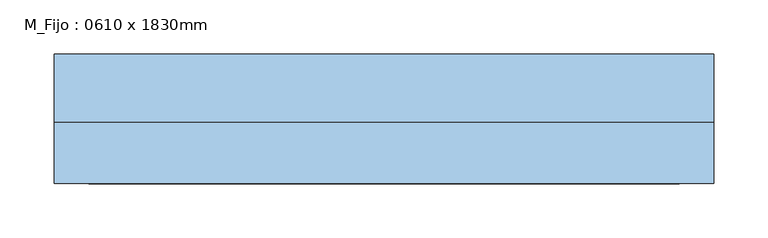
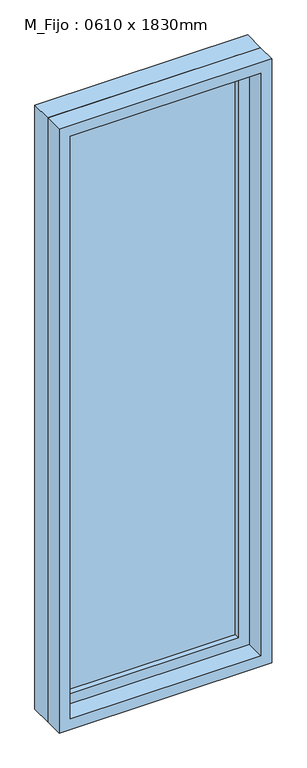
"""IFC4 building model written with IfcOpenShell, lengths in millimetres: window geometry, M_Fijo : 0610 x 1830mm."""

from ifc_helpers import new_model, si_unit, frame, origin, place, context, project, spatial, polyline, outline, extrude, source, transform, mapped, element, save


def m_fijo_0610_x_1830mm_736b37eb(model_context):
    return source(origin(), model_context, "Body", "SweptSolid", [
        extrude(outline(polyline([(-242.0, 38.0), (242.0, 38.0), (242.0, 26.0), (-242.0, 26.0), (-242.0, 38.0)])), frame((0.0, 0.0, 368.0), z_axis=(0.0, 0.0, 1.0), x_axis=(1.0, 0.0, 0.0)), (0.0, 0.0, 1.0), 1704.0),
        extrude(outline(polyline([(2116.0, -286.0), (324.0, -286.0), (324.0, 286.0), (2116.0, 286.0), (2116.0, -286.0)]), holes=[polyline([(2072.0, -242.0), (2072.0, 242.0), (368.0, 242.0), (368.0, -242.0), (2072.0, -242.0)])]), frame((0.0, 10.0, 0.0), z_axis=(0.0, 1.0, 0.0), x_axis=(0.0, 0.0, 1.0)), (0.0, 0.0, 1.0), 44.0),
        extrude(outline(polyline([(2135.0, -305.0), (305.0, -305.0), (305.0, 305.0), (2135.0, 305.0), (2135.0, -305.0)]), holes=[polyline([(2116.0, -286.0), (2116.0, 286.0), (324.0, 286.0), (324.0, -286.0), (2116.0, -286.0)])]), frame((0.0, 10.0, 0.0), z_axis=(0.0, 1.0, 0.0), x_axis=(0.0, 0.0, 1.0)), (0.0, 0.0, 1.0), 63.0),
        extrude(outline(polyline([(2135.0, -305.0), (305.0, -305.0), (305.0, 305.0), (2135.0, 305.0), (2135.0, -305.0)]), holes=[polyline([(2103.0, -273.0), (2103.0, 273.0), (337.0, 273.0), (337.0, -273.0), (2103.0, -273.0)])]), frame((0.0, -47.0, 0.0), z_axis=(0.0, 1.0, 0.0), x_axis=(0.0, 0.0, 1.0)), (0.0, 0.0, 1.0), 57.0),
    ])


if __name__ == "__main__":
    model = new_model("IFC4")
    model_context = context("Model", 3, world=origin())
    ifc_project = project(units=[si_unit("LENGTHUNIT", "METRE", prefix="MILLI")], contexts=[model_context])
    site = spatial("IfcSite", under=ifc_project)
    building = spatial("IfcBuilding", under=site)
    placement = place(None, origin())
    m_fijo_0610_x_1830mm_shape = m_fijo_0610_x_1830mm_736b37eb(model_context)
    element("IfcWindow", 1, ObjectType="M_Fijo : 0610 x 1830mm", at=placement, inside=building, context=model_context, shape_type="MappedRepresentation", body=[
        mapped(m_fijo_0610_x_1830mm_shape, transform((0.0, 0.0, 0.0), x_axis=(1.0, 0.0, 0.0), y_axis=(0.0, 1.0, 0.0), z_axis=(0.0, 0.0, 1.0))),
    ])
    save(model, "model.ifc")
